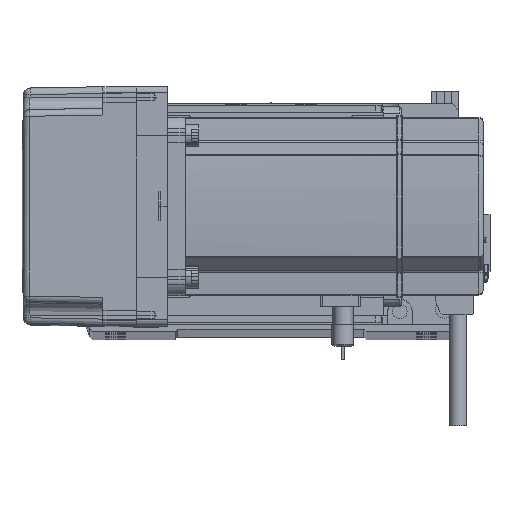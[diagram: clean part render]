
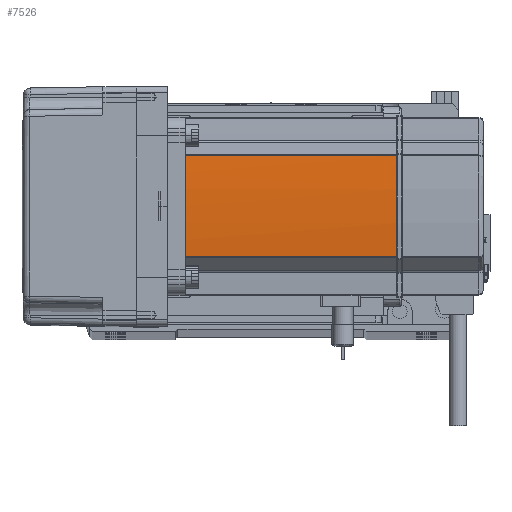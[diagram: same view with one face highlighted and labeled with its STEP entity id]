
A CAD part, top view. The second image highlights one B-rep face of the part: STEP entity #7526.
In plain terms, the highlighted cylindrical face has radius 270 mm (diameter 540 mm), a partial arc.
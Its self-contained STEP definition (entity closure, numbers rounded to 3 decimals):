
#147 = CARTESIAN_POINT ( 'NONE',  ( -230., 0., 39. ) ) ;
#701 = VERTEX_POINT ( 'NONE', #2628 ) ;
#886 = VERTEX_POINT ( 'NONE', #37219 ) ;
#2628 = CARTESIAN_POINT ( 'NONE',  ( 39.042, -22.724, 39. ) ) ;
#2978 = CARTESIAN_POINT ( 'NONE',  ( 39.042, -22.724, 58. ) ) ;
#3483 = EDGE_CURVE ( 'NONE', #41718, #886, #13278, .T. ) ;
#4061 = VECTOR ( 'NONE', #12908, 1000. ) ;
#4345 = DIRECTION ( 'NONE',  ( 0., 0., -1. ) ) ;
#5617 = VECTOR ( 'NONE', #14300, 1000. ) ;
#5838 = ORIENTED_EDGE ( 'NONE', *, *, #3483, .F. ) ;
#7526 = ADVANCED_FACE ( 'NONE', ( #28561 ), #33814, .T. ) ;
#11030 = CIRCLE ( 'NONE', #13163, 270. ) ;
#11645 = CARTESIAN_POINT ( 'NONE',  ( 39.042, -22.724, 134. ) ) ;
#11718 = CIRCLE ( 'NONE', #57245, 270. ) ;
#12549 = CIRCLE ( 'NONE', #17884, 270. ) ;
#12908 = DIRECTION ( 'NONE',  ( 0., 0., -1. ) ) ;
#13163 = AXIS2_PLACEMENT_3D ( 'NONE', #60097, #31243, #54666 ) ;
#13278 = B_SPLINE_CURVE_WITH_KNOTS ( 'NONE', 3,
 ( #53519, #29281, #34064, #58164 ),
 .UNSPECIFIED., .F., .F.,
 ( 4, 4 ),
 ( 0., 1. ),
 .UNSPECIFIED. ) ;
#14035 = DIRECTION ( 'NONE',  ( 0., 0., -1. ) ) ;
#14300 = DIRECTION ( 'NONE',  ( 0., 0., 1. ) ) ;
#16875 = ORIENTED_EDGE ( 'NONE', *, *, #38415, .T. ) ;
#17884 = AXIS2_PLACEMENT_3D ( 'NONE', #147, #4345, #42544 ) ;
#21289 = DIRECTION ( 'NONE',  ( -1., 0., 0. ) ) ;
#22388 = ORIENTED_EDGE ( 'NONE', *, *, #34416, .F. ) ;
#23810 = EDGE_LOOP ( 'NONE', ( #16875, #22388, #39610, #27489, #5838, #52478 ) ) ;
#23838 = EDGE_CURVE ( 'NONE', #55885, #886, #11030, .T. ) ;
#24201 = LINE ( 'NONE', #2978, #4061 ) ;
#27489 = ORIENTED_EDGE ( 'NONE', *, *, #23838, .T. ) ;
#28561 = FACE_OUTER_BOUND ( 'NONE', #23810, .T. ) ;
#29281 = CARTESIAN_POINT ( 'NONE',  ( 40., -0.042, 134. ) ) ;
#31157 = DIRECTION ( 'NONE',  ( 0., 0., -1. ) ) ;
#31243 = DIRECTION ( 'NONE',  ( 0., 0., -1. ) ) ;
#31476 = AXIS2_PLACEMENT_3D ( 'NONE', #46874, #14035, #32692 ) ;
#32692 = DIRECTION ( 'NONE',  ( -1., 0., 0. ) ) ;
#32782 = CARTESIAN_POINT ( 'NONE',  ( 39.042, 22.724, 134. ) ) ;
#33814 = CYLINDRICAL_SURFACE ( 'NONE', #31476, 270. ) ;
#34064 = CARTESIAN_POINT ( 'NONE',  ( 40., 0.042, 134. ) ) ;
#34416 = EDGE_CURVE ( 'NONE', #59555, #701, #12549, .T. ) ;
#34664 = CARTESIAN_POINT ( 'NONE',  ( 39.042, 22.724, 39. ) ) ;
#35229 = EDGE_CURVE ( 'NONE', #41718, #57022, #11718, .T. ) ;
#37219 = CARTESIAN_POINT ( 'NONE',  ( 40., 0.127, 134. ) ) ;
#38415 = EDGE_CURVE ( 'NONE', #57022, #701, #24201, .T. ) ;
#39610 = ORIENTED_EDGE ( 'NONE', *, *, #58818, .T. ) ;
#41718 = VERTEX_POINT ( 'NONE', #57557 ) ;
#42544 = DIRECTION ( 'NONE',  ( -1., 0., 0. ) ) ;
#42958 = CARTESIAN_POINT ( 'NONE',  ( 39.042, 22.724, 58. ) ) ;
#46874 = CARTESIAN_POINT ( 'NONE',  ( -230., 0., 58. ) ) ;
#52478 = ORIENTED_EDGE ( 'NONE', *, *, #35229, .T. ) ;
#53519 = CARTESIAN_POINT ( 'NONE',  ( 40., -0.127, 134. ) ) ;
#53965 = CARTESIAN_POINT ( 'NONE',  ( -230., 0., 134. ) ) ;
#54666 = DIRECTION ( 'NONE',  ( -1., 0., 0. ) ) ;
#54990 = LINE ( 'NONE', #42958, #5617 ) ;
#55885 = VERTEX_POINT ( 'NONE', #32782 ) ;
#57022 = VERTEX_POINT ( 'NONE', #11645 ) ;
#57245 = AXIS2_PLACEMENT_3D ( 'NONE', #53965, #31157, #21289 ) ;
#57557 = CARTESIAN_POINT ( 'NONE',  ( 40., -0.127, 134. ) ) ;
#58164 = CARTESIAN_POINT ( 'NONE',  ( 40., 0.127, 134. ) ) ;
#58818 = EDGE_CURVE ( 'NONE', #59555, #55885, #54990, .T. ) ;
#59555 = VERTEX_POINT ( 'NONE', #34664 ) ;
#60097 = CARTESIAN_POINT ( 'NONE',  ( -230., 0., 134. ) ) ;
